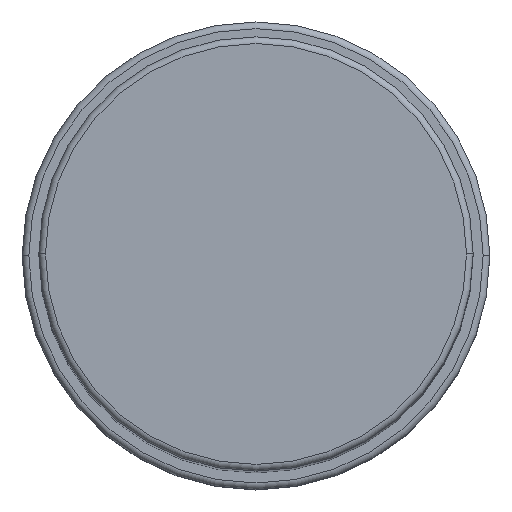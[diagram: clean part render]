
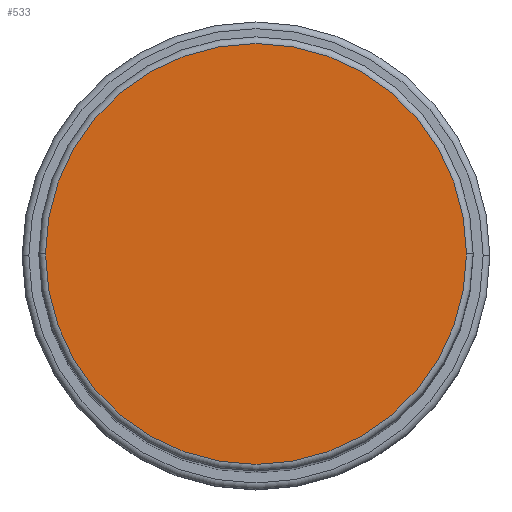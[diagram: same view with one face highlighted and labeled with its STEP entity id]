
A CAD part, top view. The second image highlights one B-rep face of the part: STEP entity #533.
In plain terms, the highlighted planar face has unit normal (0, 0, 1).
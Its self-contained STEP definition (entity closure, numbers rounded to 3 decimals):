
#86 = CARTESIAN_POINT ( 'NONE',  ( 0., 0., 173. ) ) ;
#182 = CARTESIAN_POINT ( 'NONE',  ( 0., 0., 173. ) ) ;
#423 = VERTEX_POINT ( 'NONE', #865 ) ;
#479 = DIRECTION ( 'NONE',  ( 0., 0., 1. ) ) ;
#533 = ADVANCED_FACE ( 'NONE', ( #971 ), #1149, .T. ) ;
#587 = DIRECTION ( 'NONE',  ( 0., 0., 1. ) ) ;
#595 = DIRECTION ( 'NONE',  ( 1., 0., 0. ) ) ;
#596 = ORIENTED_EDGE ( 'NONE', *, *, #1016, .T. ) ;
#601 = DIRECTION ( 'NONE',  ( 0., 0., 1. ) ) ;
#624 = DIRECTION ( 'NONE',  ( 1., 0., 0. ) ) ;
#719 = CARTESIAN_POINT ( 'NONE',  ( 0., 0., 173. ) ) ;
#865 = CARTESIAN_POINT ( 'NONE',  ( -31.5, 0., 173. ) ) ;
#960 = EDGE_LOOP ( 'NONE', ( #1692, #596 ) ) ;
#971 = FACE_OUTER_BOUND ( 'NONE', #960, .T. ) ;
#991 = DIRECTION ( 'NONE',  ( 1., 0., 0. ) ) ;
#1016 = EDGE_CURVE ( 'NONE', #423, #1262, #1608, .T. ) ;
#1132 = AXIS2_PLACEMENT_3D ( 'NONE', #86, #479, #624 ) ;
#1149 = PLANE ( 'NONE',  #1132 ) ;
#1198 = CIRCLE ( 'NONE', #1312, 31.5 ) ;
#1262 = VERTEX_POINT ( 'NONE', #1471 ) ;
#1312 = AXIS2_PLACEMENT_3D ( 'NONE', #719, #587, #991 ) ;
#1370 = AXIS2_PLACEMENT_3D ( 'NONE', #182, #601, #595 ) ;
#1395 = EDGE_CURVE ( 'NONE', #1262, #423, #1198, .T. ) ;
#1471 = CARTESIAN_POINT ( 'NONE',  ( 31.5, 0., 173. ) ) ;
#1608 = CIRCLE ( 'NONE', #1370, 31.5 ) ;
#1692 = ORIENTED_EDGE ( 'NONE', *, *, #1395, .T. ) ;
